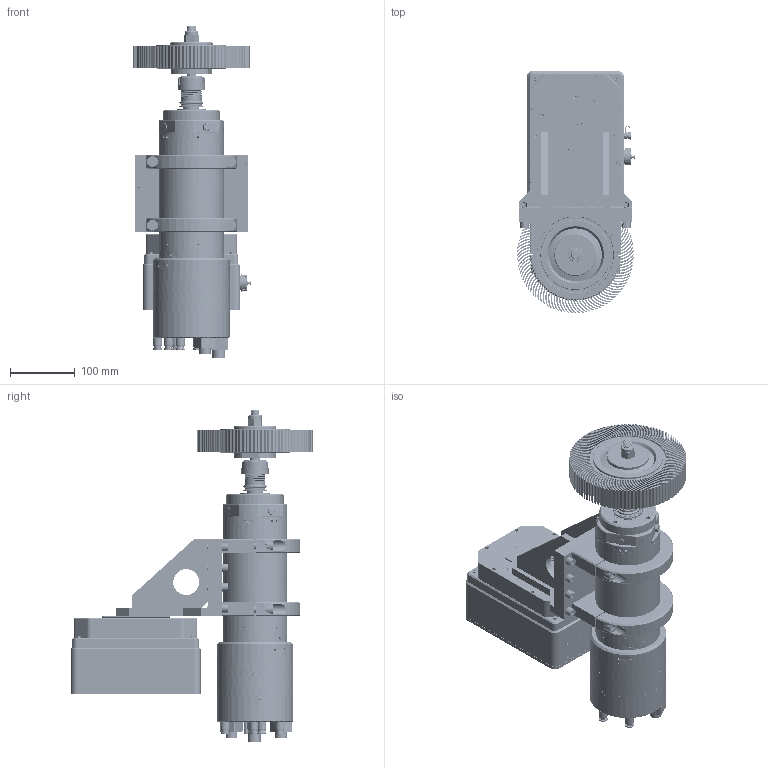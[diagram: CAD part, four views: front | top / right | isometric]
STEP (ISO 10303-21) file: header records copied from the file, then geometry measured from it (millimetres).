
FILE_DESCRIPTION (( 'STEP AP214' ), '1' );
FILE_NAME ('2¡¢3KWµç¶¯ÖáÓë500NF¸¡¶¯Ä£¿é£¨º', '2025-09-30T01:23:14', ( 'selfweld_user' ), ( '' ), 'SwSTEP 2.0', 'SolidWorks 2022', '' );
FILE_SCHEMA (( 'AUTOMOTIVE_DESIGN' ));
Length unit declared in the file: millimetre
Products named in the file (19): ｴｧﾒｶﾂﾖﾗｰﾅ萠蘋｡ﾁ｡綫_ｨｬ___ｨ｢____｡ｧ__; 眻噤3mm酗20mm种隊m_迆_∟m_“2__豕; 大千叶轮夹头 __Dí· __D¨a_¤ ; 絮梟ISO25-ER25-40L0L0L; ECM1A-500-002-000 楷冞奻漆谷_o㏒“|_o_那; 3KW电动轴与500N浮动模块连接件4_￡_éá__ó_t4__ê_¨|¨￠__¨__t4; GB／T889．2-20001型非金属嵌件六角锁紧螺母细牙M14______Y_____àM14______Y_____¨¤M14; GB／T859-1987轻型弹簧垫圈(装配)8×1．6°__)8_á1￡_6____)8_¨￠1_ê_6; 3KW电动轴连接支架1_ó_§_ü1_¨___ì_¨11; GB／T859-1987轻型弹簧垫圈(装配)10×2×°__)10_á2_á____)10_¨￠2; 萇雄粣HYC100-25-12-18Z-3.0ㄗ錨璃耀宒ㄘ__t_㏒那_㏒___t__那“o__那_; 2、3KW电动轴与500NF浮动模块（横向）装配体_é￡¨oá_ò￡_×°__ì__¨|_ê_§o¨￠_¨°_ê__á____¨__; GB／T70．1-2000内六角圆柱头螺钉M5×20·_Y_¤M5_á20_¤_Y__èM5_¨￠20; 3KW电动轴与500N浮动模块连接件5_￡_éá__ó_t5__ê_¨|¨￠__¨__t5; 湮ロ珔謫標芛 -1D赤﹞ -1D“a_∟ -1; GB／T70．1-2000内六角圆柱头螺钉M8×25·_Y_¤M8_á25_¤_Y__èM8_¨￠25; 3KW电动轴连接支架2_ó_§_ü2_¨___ì_¨12; 直径180mm千叶轮§ò____ì¨°___; GB／T70．1-2000内六角圆柱头螺钉M10×25_Y_¤M10_á25_Y__èM10_¨￠25
Assembly tree (46 placements, depth 3):
  2、3KW电动轴与500NF浮动模块（横向）装配体_é￡¨oá_ò￡_×°__ì__¨|_ê_§o¨￠_¨°_ê__á____¨__
    ECM1A-500-002-000 楷冞奻漆谷_o㏒“|_o_那
    GB／T70．1-2000内六角圆柱头螺钉M5×20·_Y_¤M5_á20_¤_Y__èM5_¨￠20  x6
    3KW电动轴连接支架1_ó_§_ü1_¨___ì_¨11
    3KW电动轴连接支架2_ó_§_ü2_¨___ì_¨12  x2
    萇雄粣HYC100-25-12-18Z-3.0ㄗ錨璃耀宒ㄘ__t_㏒那_㏒___t__那“o__那_
    眻噤3mm酗20mm种隊m_迆_∟m_“2__豕  x2
    GB／T859-1987轻型弹簧垫圈(装配)10×2×°__)10_á2_á____)10_¨￠2  x4
    GB／T70．1-2000内六角圆柱头螺钉M10×25_Y_¤M10_á25_Y__èM10_¨￠25  x4
    GB／T859-1987轻型弹簧垫圈(装配)8×1．6°__)8_á1￡_6____)8_¨￠1_ê_6  x8
    GB／T70．1-2000内六角圆柱头螺钉M8×25·_Y_¤M8_á25_¤_Y__èM8_¨￠25  x8
    絮梟ISO25-ER25-40L0L0L
    ｴｧﾒｶﾂﾖﾗｰﾅ萠蘋｡ﾁ｡綫_ｨｬ___ｨ｢____｡ｧ__
      直径180mm千叶轮§ò____ì¨°___
      大千叶轮夹头 __Dí· __D¨a_¤ 
      湮ロ珔謫標芛 -1D赤﹞ -1D“a_∟ -1
      GB／T889．2-20001型非金属嵌件六角锁紧螺母细牙M14______Y_____àM14______Y_____¨¤M14
    3KW电动轴与500N浮动模块连接件4_￡_éá__ó_t4__ê_¨|¨￠__¨__t4
    3KW电动轴与500N浮动模块连接件5_￡_éá__ó_t5__ê_¨|¨￠__¨__t5  x2
Bounding box: 181.8 x 374.2 x 511.51 mm (x, y, z)
Volume: 2806599.5 mm3; surface area: 1288335 mm2
Topology: 140 solids, 177 shells, 8176 faces, 19918 edges, 12251 vertices
Faces by surface type: plane 3382, cylinder 2908, cone 1150, torus 421, bspline 297, sphere 18
Entity records: 303798 total; most frequent: CARTESIAN_POINT 95436, DIRECTION 36885, ORIENTED_EDGE 36458, EDGE_CURVE 18448, AXIS2_PLACEMENT_3D 13923, VERTEX_POINT 11580, VECTOR 9039, LINE 9039
